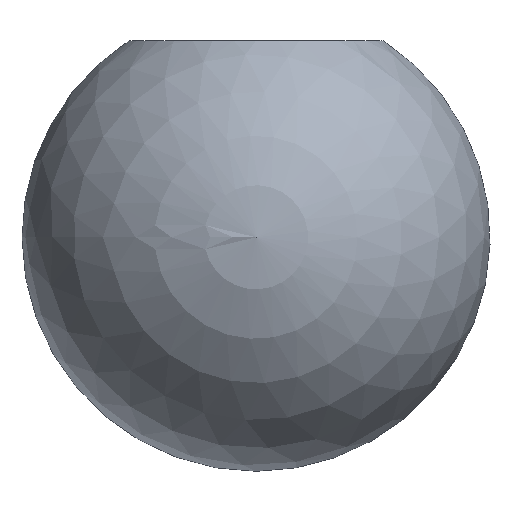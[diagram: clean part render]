
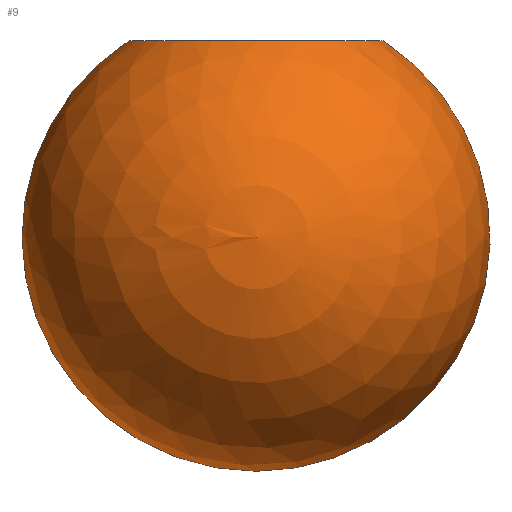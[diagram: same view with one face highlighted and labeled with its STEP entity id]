
A CAD part, left-side view. The second image highlights one B-rep face of the part: STEP entity #9.
In plain terms, the highlighted spherical face has radius 25 mm.
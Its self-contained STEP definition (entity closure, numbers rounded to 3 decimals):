
#9 = ADVANCED_FACE ( 'NONE', ( #167 ), #478, .T. ) ;
#10 = CARTESIAN_POINT ( 'NONE',  ( 0., -13.565, 0. ) ) ;
#16 = AXIS2_PLACEMENT_3D ( 'NONE', #488, #482, #138 ) ;
#41 = EDGE_CURVE ( 'NONE', #136, #450, #260, .T. ) ;
#55 = DIRECTION ( 'NONE',  ( 0., -1., 0. ) ) ;
#109 = AXIS2_PLACEMENT_3D ( 'NONE', #390, #305, #55 ) ;
#111 = CIRCLE ( 'NONE', #156, 25. ) ;
#136 = VERTEX_POINT ( 'NONE', #198 ) ;
#138 = DIRECTION ( 'NONE',  ( 0., 1., 0. ) ) ;
#149 = DIRECTION ( 'NONE',  ( 1., 0., 0. ) ) ;
#156 = AXIS2_PLACEMENT_3D ( 'NONE', #420, #149, #179 ) ;
#160 = EDGE_LOOP ( 'NONE', ( #176, #440, #178 ) ) ;
#167 = FACE_OUTER_BOUND ( 'NONE', #160, .T. ) ;
#176 = ORIENTED_EDGE ( 'NONE', *, *, #410, .F. ) ;
#178 = ORIENTED_EDGE ( 'NONE', *, *, #197, .F. ) ;
#179 = DIRECTION ( 'NONE',  ( 0., 0., -1. ) ) ;
#197 = EDGE_CURVE ( 'NONE', #335, #450, #433, .T. ) ;
#198 = CARTESIAN_POINT ( 'NONE',  ( 0., 0., -46. ) ) ;
#255 = CARTESIAN_POINT ( 'NONE',  ( 0., 13.565, 0. ) ) ;
#260 = CIRCLE ( 'NONE', #109, 25. ) ;
#282 = DIRECTION ( 'NONE',  ( 1., 0., 0. ) ) ;
#305 = DIRECTION ( 'NONE',  ( -1., 0., 0. ) ) ;
#335 = VERTEX_POINT ( 'NONE', #255 ) ;
#336 = AXIS2_PLACEMENT_3D ( 'NONE', #365, #525, #282 ) ;
#365 = CARTESIAN_POINT ( 'NONE',  ( 0., 0., 0. ) ) ;
#390 = CARTESIAN_POINT ( 'NONE',  ( 0., 0., -21. ) ) ;
#410 = EDGE_CURVE ( 'NONE', #136, #335, #111, .T. ) ;
#420 = CARTESIAN_POINT ( 'NONE',  ( 0., 0., -21. ) ) ;
#433 = CIRCLE ( 'NONE', #336, 13.565 ) ;
#440 = ORIENTED_EDGE ( 'NONE', *, *, #41, .T. ) ;
#450 = VERTEX_POINT ( 'NONE', #10 ) ;
#478 = SPHERICAL_SURFACE ( 'NONE', #16, 25. ) ;
#482 = DIRECTION ( 'NONE',  ( -1., 0., 0. ) ) ;
#488 = CARTESIAN_POINT ( 'NONE',  ( 0., 0., -21. ) ) ;
#525 = DIRECTION ( 'NONE',  ( 0., 0., 1. ) ) ;
